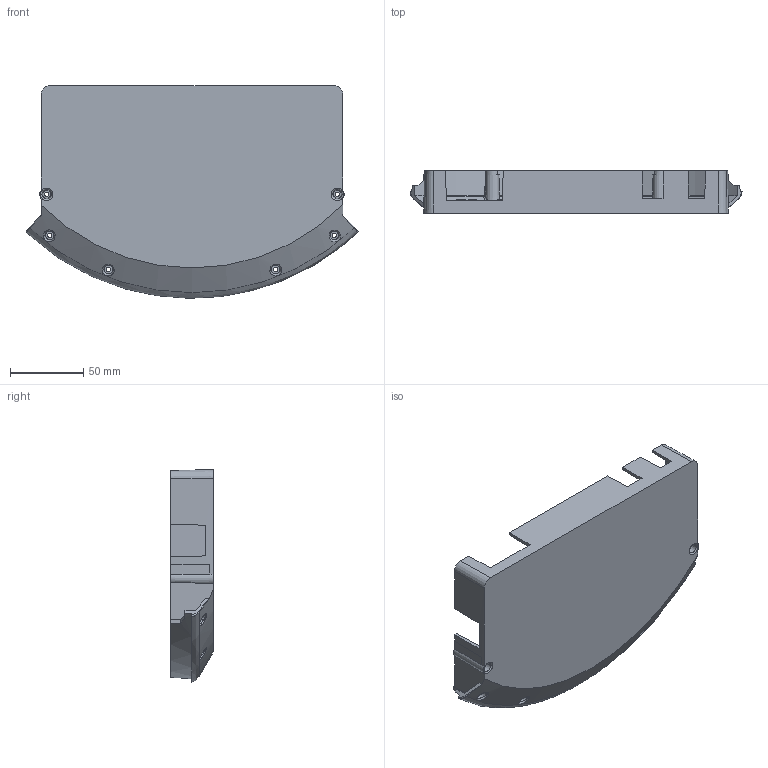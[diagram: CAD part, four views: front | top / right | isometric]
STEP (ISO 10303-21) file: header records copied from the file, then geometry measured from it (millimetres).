
FILE_DESCRIPTION((''),'2;1');
FILE_NAME('C600BINBOTTOMWITHOUTCASTER','2014-09-17T',('areichel'),('iRobot'),'PRO/ENGINEER BY PARAMETRIC TECHNOLOGY CORPORATION, 2014090','PRO/ENGINEER BY PARAMETRIC TECHNOLOGY CORPORATION, 2014090','');
FILE_SCHEMA(('CONFIG_CONTROL_DESIGN'));
Length unit declared in the file: millimetre
Products named in the file (1): C600BINBOTTOMWITHOUTCASTER
Bounding box: 226.32 x 29 x 144.95 mm (x, y, z)
Volume: 107955.8 mm3; surface area: 90211.3 mm2
Topology: 1 solids, 1 shells, 235 faces, 576 edges, 367 vertices
Faces by surface type: cone 90, plane 86, bspline 30, torus 24, sphere 3, cylinder 2
Entity records: 10808 total; most frequent: CARTESIAN_POINT 5408, ORIENTED_EDGE 1150, DIRECTION 1073, EDGE_CURVE 575, AXIS2_PLACEMENT_3D 443, VERTEX_POINT 367, EDGE_LOOP 272, CIRCLE 238
